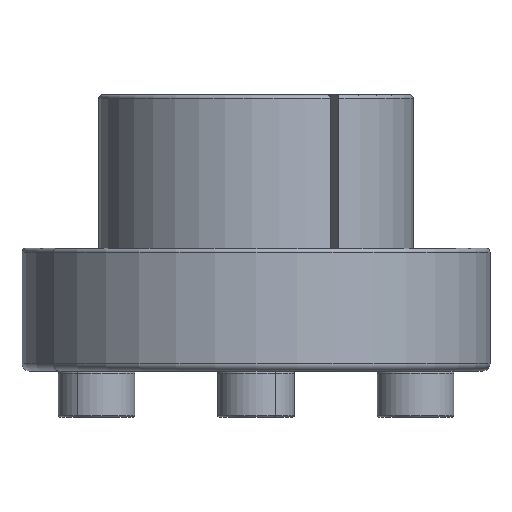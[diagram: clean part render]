
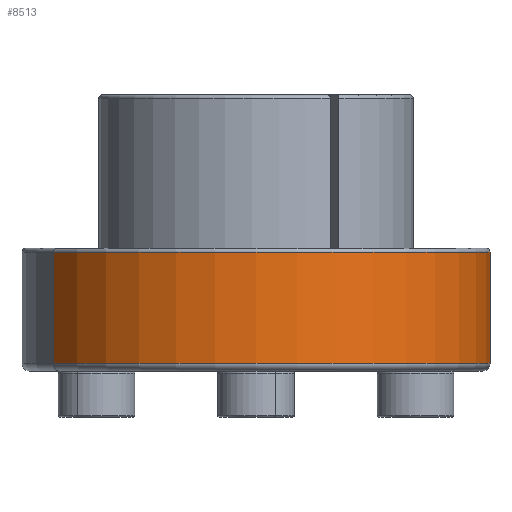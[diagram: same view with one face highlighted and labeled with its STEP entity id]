
A CAD part, front view. The second image highlights one B-rep face of the part: STEP entity #8513.
In plain terms, the highlighted cylindrical face has radius 30.5 mm (diameter 61 mm), a partial arc.
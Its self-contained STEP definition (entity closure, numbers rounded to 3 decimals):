
#437 = AXIS2_PLACEMENT_3D ( 'NONE', #5163, #5161, #5159 ) ;
#1149 = EDGE_LOOP ( 'NONE', ( #9007, #8932, #8879, #8898 ) ) ;
#1417 = EDGE_CURVE ( 'NONE', #7180, #4550, #1834, .T. ) ;
#1474 = EDGE_CURVE ( 'NONE', #8666, #7180, #2808, .T. ) ;
#1542 = EDGE_CURVE ( 'NONE', #7254, #4550, #2891, .T. ) ;
#1834 = LINE ( 'NONE', #2564, #1839 ) ;
#1839 = VECTOR ( 'NONE', #2569, 1000. ) ;
#2135 = EDGE_CURVE ( 'NONE', #8666, #7254, #2952, .T. ) ;
#2564 = CARTESIAN_POINT ( 'NONE',  ( -26.414, -15.25, -36.9 ) ) ;
#2569 = DIRECTION ( 'NONE',  ( 0., 0., -1. ) ) ;
#2737 = CARTESIAN_POINT ( 'NONE',  ( 0., 0., -20.5 ) ) ;
#2738 = DIRECTION ( 'NONE',  ( 0., 0., -1. ) ) ;
#2739 = DIRECTION ( 'NONE',  ( 0.866, 0.5, 0. ) ) ;
#2808 = CIRCLE ( 'NONE', #7459, 30.5 ) ;
#2891 = CIRCLE ( 'NONE', #7491, 30.5 ) ;
#2952 = LINE ( 'NONE', #4270, #2954 ) ;
#2954 = VECTOR ( 'NONE', #4271, 1000. ) ;
#3604 = CARTESIAN_POINT ( 'NONE',  ( -26.414, -15.25, -20.5 ) ) ;
#3678 = CARTESIAN_POINT ( 'NONE',  ( 26.414, 15.25, -35. ) ) ;
#4143 = CARTESIAN_POINT ( 'NONE',  ( 0., 0., -35. ) ) ;
#4144 = DIRECTION ( 'NONE',  ( 0., 0., -1. ) ) ;
#4145 = DIRECTION ( 'NONE',  ( 0.866, 0.5, 0. ) ) ;
#4270 = CARTESIAN_POINT ( 'NONE',  ( 26.414, 15.25, -36.9 ) ) ;
#4271 = DIRECTION ( 'NONE',  ( 0., 0., -1. ) ) ;
#4390 = CARTESIAN_POINT ( 'NONE',  ( -26.414, -15.25, -35. ) ) ;
#4550 = VERTEX_POINT ( 'NONE', #4390 ) ;
#5159 = DIRECTION ( 'NONE',  ( 0.866, 0.5, 0. ) ) ;
#5161 = DIRECTION ( 'NONE',  ( 0., 0., -1. ) ) ;
#5163 = CARTESIAN_POINT ( 'NONE',  ( 0., 0., -36.9 ) ) ;
#5600 = CARTESIAN_POINT ( 'NONE',  ( 26.414, 15.25, -20.5 ) ) ;
#6370 = FACE_OUTER_BOUND ( 'NONE', #1149, .T. ) ;
#6385 = CYLINDRICAL_SURFACE ( 'NONE', #437, 30.5 ) ;
#7180 = VERTEX_POINT ( 'NONE', #3604 ) ;
#7254 = VERTEX_POINT ( 'NONE', #3678 ) ;
#7459 = AXIS2_PLACEMENT_3D ( 'NONE', #2737, #2738, #2739 ) ;
#7491 = AXIS2_PLACEMENT_3D ( 'NONE', #4143, #4144, #4145 ) ;
#8513 = ADVANCED_FACE ( 'NONE', ( #6370 ), #6385, .T. ) ;
#8666 = VERTEX_POINT ( 'NONE', #5600 ) ;
#8879 = ORIENTED_EDGE ( 'NONE', *, *, #1542, .F. ) ;
#8898 = ORIENTED_EDGE ( 'NONE', *, *, #2135, .F. ) ;
#8932 = ORIENTED_EDGE ( 'NONE', *, *, #1417, .T. ) ;
#9007 = ORIENTED_EDGE ( 'NONE', *, *, #1474, .T. ) ;
